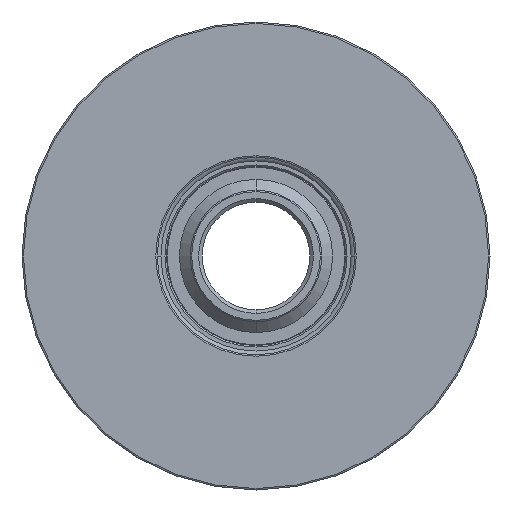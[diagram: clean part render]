
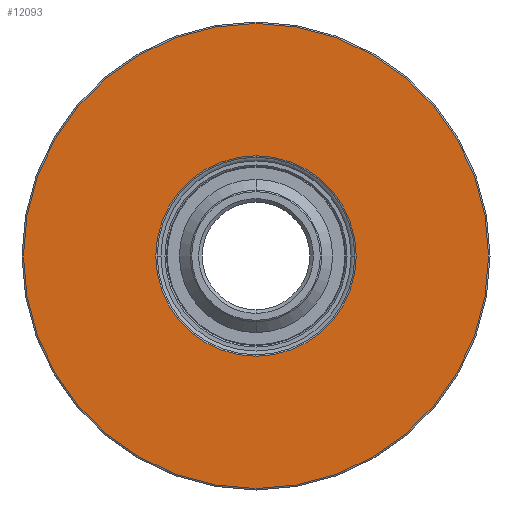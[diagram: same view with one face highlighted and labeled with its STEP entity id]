
A CAD part, front view. The second image highlights one B-rep face of the part: STEP entity #12093.
In plain terms, the highlighted planar face has unit normal (0, -1, 0) as drawn and (0, 1, 0) by its records, which use the part's own axes.
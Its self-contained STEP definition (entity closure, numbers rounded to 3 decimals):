
#2611=CARTESIAN_POINT('',(0.,5.,0.));
#2612=DIRECTION('',(0.,1.,0.));
#2613=DIRECTION('',(0.,0.,-1.));
#2614=AXIS2_PLACEMENT_3D('',#2611,#2612,#2613);
#2616=CARTESIAN_POINT('',(0.,5.,0.));
#2617=DIRECTION('',(0.,1.,0.));
#2618=DIRECTION('',(0.,0.,1.));
#2619=AXIS2_PLACEMENT_3D('',#2616,#2617,#2618);
#2621=CARTESIAN_POINT('',(0.,5.,0.));
#2622=DIRECTION('',(0.,1.,0.));
#2623=DIRECTION('',(0.,0.,-1.));
#2624=AXIS2_PLACEMENT_3D('',#2621,#2622,#2623);
#2626=CARTESIAN_POINT('',(0.,5.,0.));
#2627=DIRECTION('',(0.,1.,0.));
#2628=DIRECTION('',(0.,0.,1.));
#2629=AXIS2_PLACEMENT_3D('',#2626,#2627,#2628);
#10292=CARTESIAN_POINT('',(0.,5.,-13.7));
#10293=CARTESIAN_POINT('',(0.,5.,13.7));
#10294=VERTEX_POINT('',#10292);
#10295=VERTEX_POINT('',#10293);
#10336=CARTESIAN_POINT('',(0.,5.,-31.8));
#10337=CARTESIAN_POINT('',(0.,5.,31.8));
#10338=VERTEX_POINT('',#10336);
#10339=VERTEX_POINT('',#10337);
#12077=CARTESIAN_POINT('',(0.,5.,0.));
#12078=DIRECTION('',(0.,1.,0.));
#12079=DIRECTION('',(0.,0.,-1.));
#12080=AXIS2_PLACEMENT_3D('',#12077,#12078,#12079);
#12081=PLANE('',#12080);
#12083=ORIENTED_EDGE('',*,*,#12082,.F.);
#12084=ORIENTED_EDGE('',*,*,#12067,.F.);
#12085=EDGE_LOOP('',(#12083,#12084));
#12086=FACE_OUTER_BOUND('',#12085,.F.);
#12088=ORIENTED_EDGE('',*,*,#12087,.T.);
#12090=ORIENTED_EDGE('',*,*,#12089,.T.);
#12091=EDGE_LOOP('',(#12088,#12090));
#12092=FACE_BOUND('',#12091,.F.);
#12093=ADVANCED_FACE('',(#12086,#12092),#12081,.T.);
#2615=CIRCLE('',#2614,13.7);
#2620=CIRCLE('',#2619,13.7);
#2625=CIRCLE('',#2624,31.8);
#2630=CIRCLE('',#2629,31.8);
#12067=EDGE_CURVE('',#10339,#10338,#2630,.T.);
#12082=EDGE_CURVE('',#10338,#10339,#2625,.T.);
#12087=EDGE_CURVE('',#10294,#10295,#2615,.T.);
#12089=EDGE_CURVE('',#10295,#10294,#2620,.T.);
